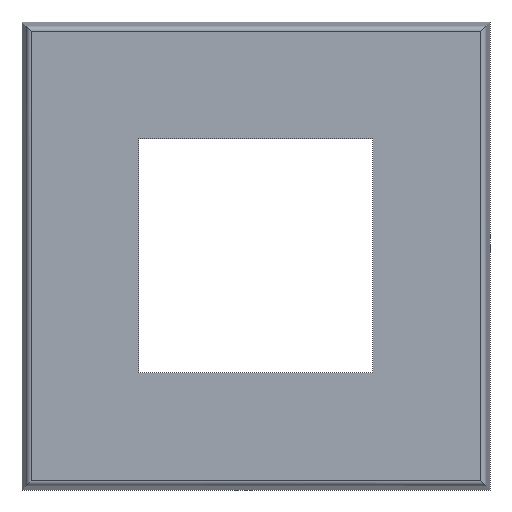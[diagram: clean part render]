
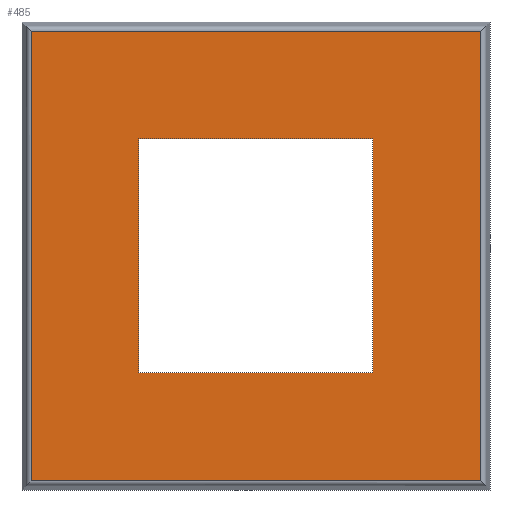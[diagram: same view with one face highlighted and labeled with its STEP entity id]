
A CAD part, front view. The second image highlights one B-rep face of the part: STEP entity #485.
In plain terms, the highlighted planar face has unit normal (0, -1, 0).
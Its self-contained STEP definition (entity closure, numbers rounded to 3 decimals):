
#14=DIRECTION('',(-1.,0.,0.));
#15=VECTOR('',#14,92.306);
#16=CARTESIAN_POINT('',(46.153,0.,46.153));
#17=LINE('',#16,#15);
#51=DIRECTION('',(0.,0.,-1.));
#52=VECTOR('',#51,92.306);
#53=CARTESIAN_POINT('',(-46.153,0.,46.153));
#54=LINE('',#53,#52);
#64=DIRECTION('',(1.,0.,0.));
#65=VECTOR('',#64,92.306);
#66=CARTESIAN_POINT('',(-46.153,0.,-46.153));
#67=LINE('',#66,#65);
#81=DIRECTION('',(0.,0.,1.));
#82=VECTOR('',#81,92.306);
#83=CARTESIAN_POINT('',(46.153,0.,-46.153));
#84=LINE('',#83,#82);
#253=DIRECTION('',(-1.,0.,0.));
#254=VECTOR('',#253,48.);
#255=CARTESIAN_POINT('',(24.,0.,-24.));
#256=LINE('',#255,#254);
#257=DIRECTION('',(0.,0.,1.));
#258=VECTOR('',#257,48.);
#259=CARTESIAN_POINT('',(-24.,0.,-24.));
#260=LINE('',#259,#258);
#265=DIRECTION('',(1.,0.,0.));
#266=VECTOR('',#265,48.);
#267=CARTESIAN_POINT('',(-24.,0.,24.));
#268=LINE('',#267,#266);
#273=DIRECTION('',(0.,0.,-1.));
#274=VECTOR('',#273,48.);
#275=CARTESIAN_POINT('',(24.,0.,24.));
#276=LINE('',#275,#274);
#357=CARTESIAN_POINT('',(24.,0.,-24.));
#358=CARTESIAN_POINT('',(-24.,0.,-24.));
#359=VERTEX_POINT('',#357);
#360=VERTEX_POINT('',#358);
#361=CARTESIAN_POINT('',(24.,0.,24.));
#362=VERTEX_POINT('',#361);
#363=CARTESIAN_POINT('',(-24.,0.,24.));
#364=VERTEX_POINT('',#363);
#365=CARTESIAN_POINT('',(46.153,0.,46.153));
#366=CARTESIAN_POINT('',(-46.153,0.,46.153));
#367=VERTEX_POINT('',#365);
#368=VERTEX_POINT('',#366);
#369=CARTESIAN_POINT('',(46.153,0.,-46.153));
#370=VERTEX_POINT('',#369);
#371=CARTESIAN_POINT('',(-46.153,0.,-46.153));
#372=VERTEX_POINT('',#371);
#460=CARTESIAN_POINT('',(0.,0.,0.));
#461=DIRECTION('',(0.,1.,0.));
#462=DIRECTION('',(1.,0.,0.));
#463=AXIS2_PLACEMENT_3D('',#460,#461,#462);
#464=PLANE('',#463);
#466=ORIENTED_EDGE('',*,*,#465,.F.);
#468=ORIENTED_EDGE('',*,*,#467,.F.);
#470=ORIENTED_EDGE('',*,*,#469,.F.);
#472=ORIENTED_EDGE('',*,*,#471,.F.);
#473=EDGE_LOOP('',(#466,#468,#470,#472));
#474=FACE_OUTER_BOUND('',#473,.F.);
#476=ORIENTED_EDGE('',*,*,#475,.F.);
#478=ORIENTED_EDGE('',*,*,#477,.F.);
#480=ORIENTED_EDGE('',*,*,#479,.F.);
#482=ORIENTED_EDGE('',*,*,#481,.F.);
#483=EDGE_LOOP('',(#476,#478,#480,#482));
#484=FACE_BOUND('',#483,.F.);
#465=EDGE_CURVE('',#367,#368,#17,.T.);
#467=EDGE_CURVE('',#370,#367,#84,.T.);
#469=EDGE_CURVE('',#372,#370,#67,.T.);
#471=EDGE_CURVE('',#368,#372,#54,.T.);
#475=EDGE_CURVE('',#359,#360,#256,.T.);
#477=EDGE_CURVE('',#362,#359,#276,.T.);
#479=EDGE_CURVE('',#364,#362,#268,.T.);
#481=EDGE_CURVE('',#360,#364,#260,.T.);
#485=ADVANCED_FACE('',(#474,#484),#464,.F.);
